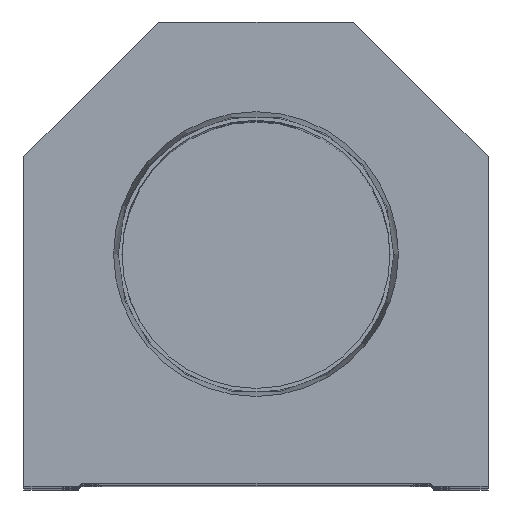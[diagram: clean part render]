
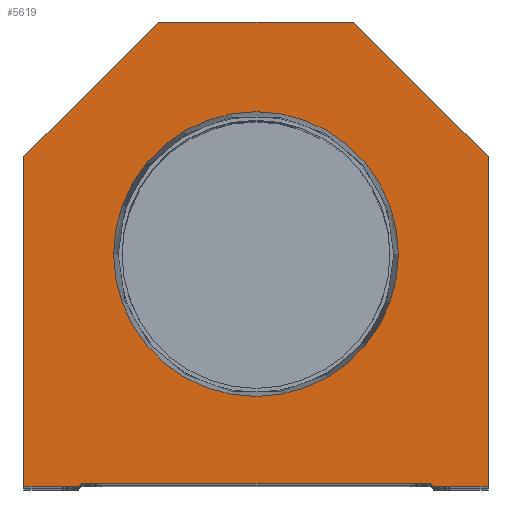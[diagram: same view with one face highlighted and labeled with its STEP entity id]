
A CAD part, top view. The second image highlights one B-rep face of the part: STEP entity #5619.
In plain terms, the highlighted planar face has unit normal (0, 0, 1).
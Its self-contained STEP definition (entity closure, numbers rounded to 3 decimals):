
#515 = CARTESIAN_POINT ( 'NONE',  ( 16., 76.2, 0. ) ) ;
#965 = VECTOR ( 'NONE', #8163, 1000. ) ;
#1417 = CARTESIAN_POINT ( 'NONE',  ( -38.1, 54.1, 0. ) ) ;
#1796 = ORIENTED_EDGE ( 'NONE', *, *, #22853, .T. ) ;
#1823 = CARTESIAN_POINT ( 'NONE',  ( -29.1, 0., 0. ) ) ;
#1992 = LINE ( 'NONE', #9045, #7724 ) ;
#2302 = DIRECTION ( 'NONE',  ( -0.707, 0.707, 0. ) ) ;
#2522 = AXIS2_PLACEMENT_3D ( 'NONE', #6079, #13226, #20183 ) ;
#2549 = CARTESIAN_POINT ( 'NONE',  ( -38.1, 0., 0. ) ) ;
#2752 = LINE ( 'NONE', #2870, #10334 ) ;
#2870 = CARTESIAN_POINT ( 'NONE',  ( -38.1, 0., 0. ) ) ;
#2938 = DIRECTION ( 'NONE',  ( 0., 0., 1. ) ) ;
#2964 = CARTESIAN_POINT ( 'NONE',  ( 0., 38.1, 0. ) ) ;
#3324 = CIRCLE ( 'NONE', #21800, 23.374 ) ;
#3445 = ORIENTED_EDGE ( 'NONE', *, *, #22215, .T. ) ;
#3503 = DIRECTION ( 'NONE',  ( -0.707, -0.707, 0. ) ) ;
#3735 = VECTOR ( 'NONE', #19978, 1000. ) ;
#3967 = VECTOR ( 'NONE', #10221, 1000. ) ;
#4095 = VERTEX_POINT ( 'NONE', #11184 ) ;
#4201 = CARTESIAN_POINT ( 'NONE',  ( 38.1, 54.1, 0. ) ) ;
#4549 = VERTEX_POINT ( 'NONE', #4201 ) ;
#4582 = CARTESIAN_POINT ( 'NONE',  ( 28.6, 0., 0. ) ) ;
#4948 = VERTEX_POINT ( 'NONE', #18452 ) ;
#4961 = EDGE_CURVE ( 'NONE', #4948, #8041, #9981, .T. ) ;
#4983 = CARTESIAN_POINT ( 'NONE',  ( -16., 76.2, 0. ) ) ;
#5114 = EDGE_LOOP ( 'NONE', ( #11012, #6154 ) ) ;
#5561 = VECTOR ( 'NONE', #21538, 1000. ) ;
#5619 = ADVANCED_FACE ( 'NONE', ( #6443, #11510 ), #17084, .T. ) ;
#5667 = EDGE_CURVE ( 'NONE', #4095, #21554, #22624, .T. ) ;
#6079 = CARTESIAN_POINT ( 'NONE',  ( 0., 38.1, 0. ) ) ;
#6154 = ORIENTED_EDGE ( 'NONE', *, *, #10541, .F. ) ;
#6384 = ORIENTED_EDGE ( 'NONE', *, *, #5667, .T. ) ;
#6443 = FACE_BOUND ( 'NONE', #5114, .T. ) ;
#6760 = VERTEX_POINT ( 'NONE', #2549 ) ;
#6797 = ORIENTED_EDGE ( 'NONE', *, *, #18367, .T. ) ;
#7531 = CARTESIAN_POINT ( 'NONE',  ( -23.374, 38.1, 0. ) ) ;
#7724 = VECTOR ( 'NONE', #20982, 1000. ) ;
#7732 = DIRECTION ( 'NONE',  ( 1., 0., 0. ) ) ;
#7852 = VECTOR ( 'NONE', #2302, 1000. ) ;
#7891 = CARTESIAN_POINT ( 'NONE',  ( 28.6, 0.5, 0. ) ) ;
#8041 = VERTEX_POINT ( 'NONE', #20890 ) ;
#8163 = DIRECTION ( 'NONE',  ( 1., 0., 0. ) ) ;
#8226 = EDGE_CURVE ( 'NONE', #8041, #4549, #1992, .T. ) ;
#8457 = ORIENTED_EDGE ( 'NONE', *, *, #14653, .T. ) ;
#8653 = DIRECTION ( 'NONE',  ( 1., 0., 0. ) ) ;
#9045 = CARTESIAN_POINT ( 'NONE',  ( 38.1, 0., 0. ) ) ;
#9275 = LINE ( 'NONE', #16342, #5561 ) ;
#9954 = VECTOR ( 'NONE', #14526, 1000. ) ;
#9981 = LINE ( 'NONE', #4582, #965 ) ;
#10058 = ORIENTED_EDGE ( 'NONE', *, *, #4961, .T. ) ;
#10221 = DIRECTION ( 'NONE',  ( 1., 0., 0. ) ) ;
#10252 = VERTEX_POINT ( 'NONE', #7531 ) ;
#10331 = LINE ( 'NONE', #13813, #13903 ) ;
#10334 = VECTOR ( 'NONE', #13404, 1000. ) ;
#10541 = EDGE_CURVE ( 'NONE', #10252, #13729, #3324, .T. ) ;
#10570 = CARTESIAN_POINT ( 'NONE',  ( -28.6, 0.5, 0. ) ) ;
#10679 = EDGE_CURVE ( 'NONE', #11770, #20768, #16244, .T. ) ;
#11012 = ORIENTED_EDGE ( 'NONE', *, *, #20230, .F. ) ;
#11184 = CARTESIAN_POINT ( 'NONE',  ( -28.6, 0.5, 0. ) ) ;
#11510 = FACE_OUTER_BOUND ( 'NONE', #17357, .T. ) ;
#11749 = CIRCLE ( 'NONE', #2522, 23.374 ) ;
#11770 = VERTEX_POINT ( 'NONE', #19283 ) ;
#11878 = DIRECTION ( 'NONE',  ( 0., 0., 1. ) ) ;
#11968 = ORIENTED_EDGE ( 'NONE', *, *, #8226, .T. ) ;
#12289 = DIRECTION ( 'NONE',  ( 0.707, -0.707, 0. ) ) ;
#12479 = VERTEX_POINT ( 'NONE', #1823 ) ;
#13226 = DIRECTION ( 'NONE',  ( 0., 0., 1. ) ) ;
#13339 = EDGE_CURVE ( 'NONE', #4549, #11770, #20018, .T. ) ;
#13404 = DIRECTION ( 'NONE',  ( 0., -1., 0. ) ) ;
#13729 = VERTEX_POINT ( 'NONE', #14169 ) ;
#13813 = CARTESIAN_POINT ( 'NONE',  ( 14.55, 14.55, 0. ) ) ;
#13903 = VECTOR ( 'NONE', #12289, 1000. ) ;
#14135 = VERTEX_POINT ( 'NONE', #17461 ) ;
#14169 = CARTESIAN_POINT ( 'NONE',  ( 23.374, 38.1, 0. ) ) ;
#14526 = DIRECTION ( 'NONE',  ( -1., 0., 0. ) ) ;
#14653 = EDGE_CURVE ( 'NONE', #20768, #14135, #18896, .T. ) ;
#16244 = LINE ( 'NONE', #515, #9954 ) ;
#16342 = CARTESIAN_POINT ( 'NONE',  ( -28.6, 0., 0. ) ) ;
#17084 = PLANE ( 'NONE',  #18689 ) ;
#17357 = EDGE_LOOP ( 'NONE', ( #1796, #3445, #6384, #6797, #10058, #11968, #18533, #18937, #8457, #20551 ) ) ;
#17461 = CARTESIAN_POINT ( 'NONE',  ( -38.1, 54.1, 0. ) ) ;
#17876 = VECTOR ( 'NONE', #3503, 1000. ) ;
#18367 = EDGE_CURVE ( 'NONE', #21554, #4948, #10331, .T. ) ;
#18452 = CARTESIAN_POINT ( 'NONE',  ( 29.1, 0., 0. ) ) ;
#18533 = ORIENTED_EDGE ( 'NONE', *, *, #13339, .T. ) ;
#18689 = AXIS2_PLACEMENT_3D ( 'NONE', #18809, #2938, #7732 ) ;
#18809 = CARTESIAN_POINT ( 'NONE',  ( 0., 0., 0. ) ) ;
#18896 = LINE ( 'NONE', #1417, #17876 ) ;
#18937 = ORIENTED_EDGE ( 'NONE', *, *, #10679, .T. ) ;
#19283 = CARTESIAN_POINT ( 'NONE',  ( 16., 76.2, 0. ) ) ;
#19796 = CARTESIAN_POINT ( 'NONE',  ( 38.1, 54.1, 0. ) ) ;
#19978 = DIRECTION ( 'NONE',  ( 0.707, 0.707, 0. ) ) ;
#20018 = LINE ( 'NONE', #19796, #7852 ) ;
#20084 = LINE ( 'NONE', #20196, #3735 ) ;
#20183 = DIRECTION ( 'NONE',  ( 1., 0., 0. ) ) ;
#20196 = CARTESIAN_POINT ( 'NONE',  ( -14.55, 14.55, 0. ) ) ;
#20230 = EDGE_CURVE ( 'NONE', #13729, #10252, #11749, .T. ) ;
#20551 = ORIENTED_EDGE ( 'NONE', *, *, #21611, .T. ) ;
#20768 = VERTEX_POINT ( 'NONE', #4983 ) ;
#20890 = CARTESIAN_POINT ( 'NONE',  ( 38.1, 0., 0. ) ) ;
#20982 = DIRECTION ( 'NONE',  ( 0., 1., 0. ) ) ;
#21538 = DIRECTION ( 'NONE',  ( 1., 0., 0. ) ) ;
#21554 = VERTEX_POINT ( 'NONE', #7891 ) ;
#21611 = EDGE_CURVE ( 'NONE', #14135, #6760, #2752, .T. ) ;
#21800 = AXIS2_PLACEMENT_3D ( 'NONE', #2964, #11878, #8653 ) ;
#22215 = EDGE_CURVE ( 'NONE', #12479, #4095, #20084, .T. ) ;
#22624 = LINE ( 'NONE', #10570, #3967 ) ;
#22853 = EDGE_CURVE ( 'NONE', #6760, #12479, #9275, .T. ) ;
